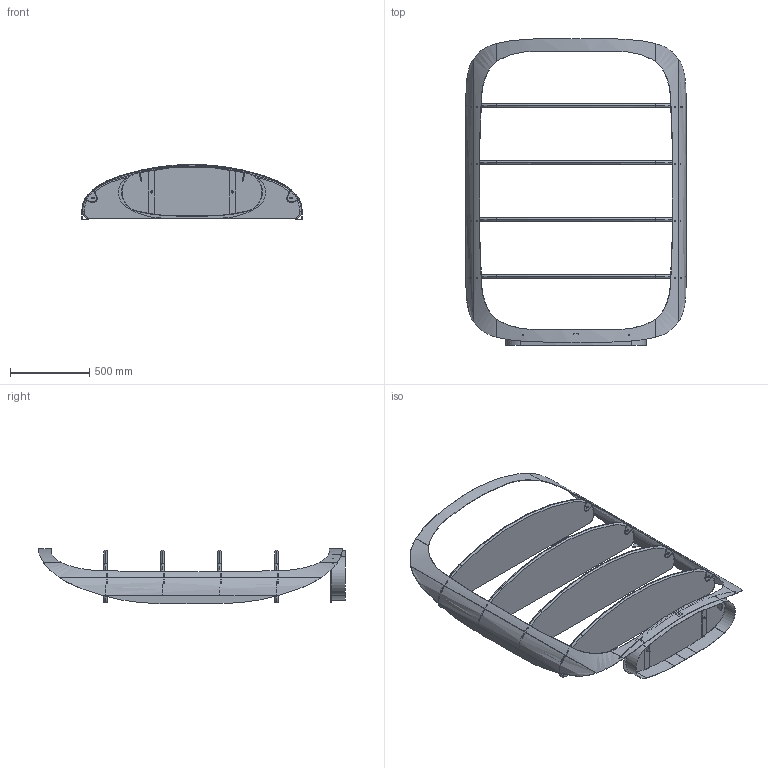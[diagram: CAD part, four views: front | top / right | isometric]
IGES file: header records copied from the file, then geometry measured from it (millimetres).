
Start section: SolidWorks IGES file using analytic representation for surfaces
Global section: file name: Y:\eforma\TECNICO\SOLIDWORKS\E-FORMA\08-LIBRERIE\LIBRERIA POLIFEMO\PB10S_Polifermo libreria_139x35x194.IGS; native system: SolidWorks 2022; preprocessor: SolidWorks 2022; author: eforma.tech; date: 240802.105515; units: millimetre
Bounding box: 1395.36 x 1940 x 348.18 mm (x, y, z)
Volume: 36784846.8 mm3; surface area: 6141748 mm2
Topology: 23 solids, 23 shells, 697 faces, 1823 edges, 1164 vertices
Faces by surface type: revolution 344, plane 307, bspline 46
